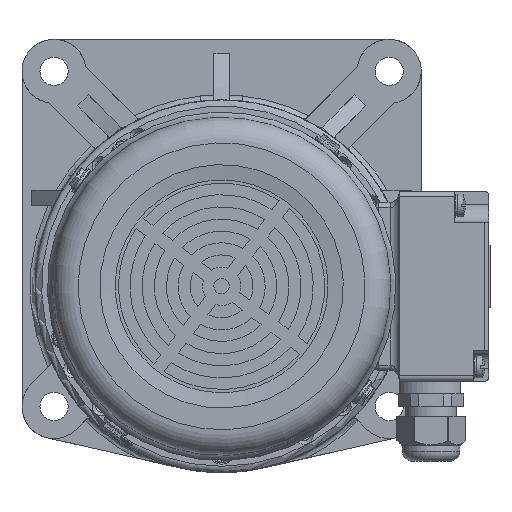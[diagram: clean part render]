
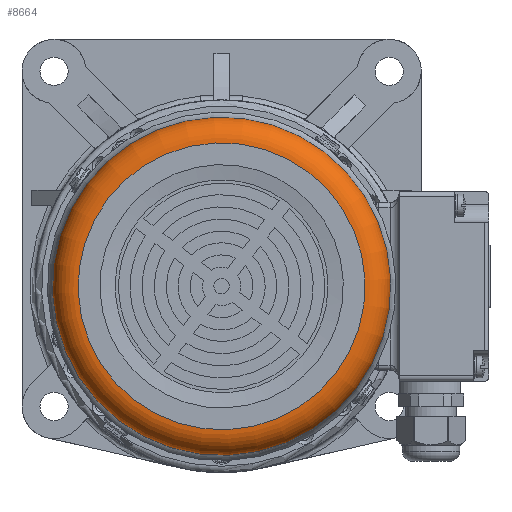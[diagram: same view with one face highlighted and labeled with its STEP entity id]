
A CAD part, left-side view. The second image highlights one B-rep face of the part: STEP entity #8664.
In plain terms, the highlighted toroidal (fillet/blend) face has major radius 56 mm and minor radius 10 mm.
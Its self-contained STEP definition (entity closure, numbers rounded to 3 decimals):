
#880=FACE_BOUND('',#13642,.T.);
#881=FACE_BOUND('',#13643,.T.);
#1434=TOROIDAL_SURFACE('',#36892,56.,10.);
#8664=ADVANCED_FACE('',(#880,#881),#1434,.T.);
#13642=EDGE_LOOP('',(#20933));
#13643=EDGE_LOOP('',(#20934));
#20933=ORIENTED_EDGE('',*,*,#31026,.T.);
#20934=ORIENTED_EDGE('',*,*,#29334,.F.);
#25483=VERTEX_POINT('',#52843);
#26591=VERTEX_POINT('',#59510);
#29334=EDGE_CURVE('',#25483,#25483,#33213,.T.);
#31026=EDGE_CURVE('',#26591,#26591,#33810,.T.);
#33213=CIRCLE('',#35736,56.);
#33810=CIRCLE('',#36891,66.);
#35736=AXIS2_PLACEMENT_3D('',#52842,#41738,#41739);
#36891=AXIS2_PLACEMENT_3D('',#59509,#44858,#44859);
#36892=AXIS2_PLACEMENT_3D('',#59511,#44860,#44861);
#41738=DIRECTION('',(-1.,0.,0.));
#41739=DIRECTION('',(0.,-0.609,0.793));
#44858=DIRECTION('',(-1.,0.,0.));
#44859=DIRECTION('',(0.,-0.609,0.793));
#44860=DIRECTION('',(-1.,0.,0.));
#44861=DIRECTION('',(0.,-0.609,0.793));
#52842=CARTESIAN_POINT('',(-253.3,76.49,-23.973));
#52843=CARTESIAN_POINT('',(-253.3,42.399,20.455));
#59509=CARTESIAN_POINT('',(-243.3,76.49,-23.973));
#59510=CARTESIAN_POINT('',(-243.3,36.312,28.388));
#59511=CARTESIAN_POINT('',(-243.3,76.49,-23.973));
